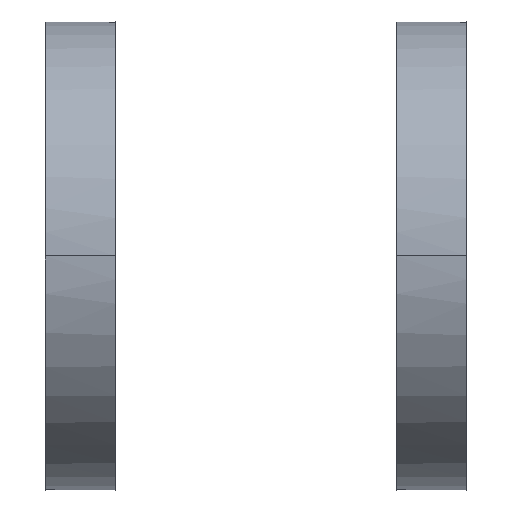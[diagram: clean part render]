
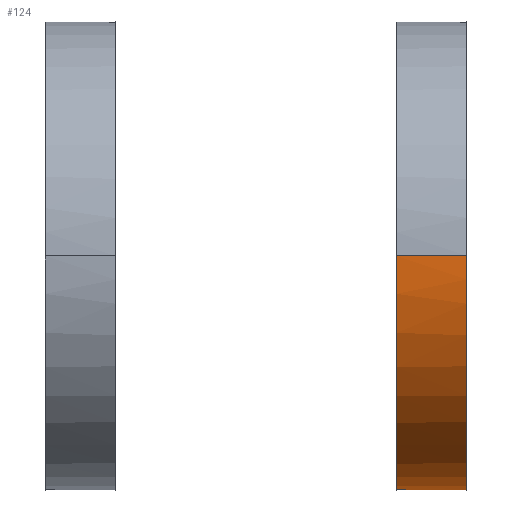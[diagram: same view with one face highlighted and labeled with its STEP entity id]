
A CAD part, front view. The second image highlights one B-rep face of the part: STEP entity #124.
In plain terms, the highlighted free-form (B-spline) face has degree [1, 2] with [2, 9] control points.
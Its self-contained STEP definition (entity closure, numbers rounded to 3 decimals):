
#27=B_SPLINE_CURVE_WITH_KNOTS('',1,(#413,#414),.UNSPECIFIED.,.F.,.F.,(2,
2),(0.,1.),.UNSPECIFIED.);
#28=B_SPLINE_CURVE_WITH_KNOTS('',1,(#415,#416),.UNSPECIFIED.,.F.,.F.,(2,
2),(0.,1.),.UNSPECIFIED.);
#29=B_SPLINE_CURVE_WITH_KNOTS('',1,(#422,#423),.UNSPECIFIED.,.F.,.F.,(2,
2),(1.,4.142),.UNSPECIFIED.);
#30=B_SPLINE_CURVE_WITH_KNOTS('',1,(#424,#425),.UNSPECIFIED.,.F.,.F.,(2,
2),(4.142,5.142),.UNSPECIFIED.);
#31=B_SPLINE_CURVE_WITH_KNOTS('',1,(#426,#427),.UNSPECIFIED.,.F.,.F.,(2,
2),(4.142,5.142),.UNSPECIFIED.);
#32=B_SPLINE_CURVE_WITH_KNOTS('',1,(#433,#434),.UNSPECIFIED.,.F.,.F.,(2,
2),(5.142,8.283),.UNSPECIFIED.);
#51=(
BOUNDED_SURFACE()
B_SPLINE_SURFACE(1,2,((#391,#392,#393,#394,#395,#396,#397,#398,#399),(#400,
#401,#402,#403,#404,#405,#406,#407,#408)),.UNSPECIFIED.,.F.,.F.,.F.)
B_SPLINE_SURFACE_WITH_KNOTS((2,2),(3,2,2,2,3),(0.,1.),(0.,1.571,
3.142,4.712,6.283),.UNSPECIFIED.)
GEOMETRIC_REPRESENTATION_ITEM()
RATIONAL_B_SPLINE_SURFACE(((1.,0.707,1.,0.707,1.,
0.707,1.,0.707,1.),(1.,0.707,1.,0.707,
1.,0.707,1.,0.707,1.)))
REPRESENTATION_ITEM('')
SURFACE()
);
#124=ADVANCED_FACE('',(#132),#51,.T.);
#132=FACE_OUTER_BOUND('',#139,.T.);
#139=EDGE_LOOP('',(#147,#148,#149,#150));
#147=ORIENTED_EDGE('',*,*,#227,.T.);
#148=ORIENTED_EDGE('',*,*,#228,.T.);
#149=ORIENTED_EDGE('',*,*,#229,.T.);
#150=ORIENTED_EDGE('',*,*,#230,.T.);
#167=PCURVE('',#51,#187);
#168=PCURVE('',#51,#188);
#169=PCURVE('',#51,#189);
#170=PCURVE('',#51,#190);
#187=DEFINITIONAL_REPRESENTATION('',(#28),#611);
#188=DEFINITIONAL_REPRESENTATION('',(#29),#611);
#189=DEFINITIONAL_REPRESENTATION('',(#31),#611);
#190=DEFINITIONAL_REPRESENTATION('',(#32),#611);
#207=SURFACE_CURVE('',#27,(#167),.PCURVE_S1.);
#208=SURFACE_CURVE('',#249,(#168),.PCURVE_S1.);
#209=SURFACE_CURVE('',#30,(#169),.PCURVE_S1.);
#210=SURFACE_CURVE('',#250,(#170),.PCURVE_S1.);
#227=EDGE_CURVE('',#263,#264,#207,.T.);
#228=EDGE_CURVE('',#264,#265,#208,.T.);
#229=EDGE_CURVE('',#265,#266,#209,.T.);
#230=EDGE_CURVE('',#266,#263,#210,.T.);
#249=(
BOUNDED_CURVE()
B_SPLINE_CURVE(2,(#417,#418,#419,#420,#421),.UNSPECIFIED.,.F.,.F.)
B_SPLINE_CURVE_WITH_KNOTS((3,2,3),(1.,2.571,4.142),
 .UNSPECIFIED.)
CURVE()
GEOMETRIC_REPRESENTATION_ITEM()
RATIONAL_B_SPLINE_CURVE((1.,0.707,1.,0.707,1.))
REPRESENTATION_ITEM('')
);
#250=(
BOUNDED_CURVE()
B_SPLINE_CURVE(2,(#428,#429,#430,#431,#432),.UNSPECIFIED.,.F.,.F.)
B_SPLINE_CURVE_WITH_KNOTS((3,2,3),(5.142,6.712,8.283),
 .UNSPECIFIED.)
CURVE()
GEOMETRIC_REPRESENTATION_ITEM()
RATIONAL_B_SPLINE_CURVE((1.,0.707,1.,0.707,1.))
REPRESENTATION_ITEM('')
);
#263=VERTEX_POINT('',#409);
#264=VERTEX_POINT('',#410);
#265=VERTEX_POINT('',#411);
#266=VERTEX_POINT('',#412);
#391=CARTESIAN_POINT('',(0.,5.,0.));
#392=CARTESIAN_POINT('',(0.,5.,5.));
#393=CARTESIAN_POINT('',(0.,0.,5.));
#394=CARTESIAN_POINT('',(0.,-5.,5.));
#395=CARTESIAN_POINT('',(0.,-5.,0.));
#396=CARTESIAN_POINT('',(0.,-5.,-5.));
#397=CARTESIAN_POINT('',(0.,0.,-5.));
#398=CARTESIAN_POINT('',(0.,5.,-5.));
#399=CARTESIAN_POINT('',(0.,5.,0.));
#400=CARTESIAN_POINT('',(-1.5,5.,0.));
#401=CARTESIAN_POINT('',(-1.5,5.,5.));
#402=CARTESIAN_POINT('',(-1.5,0.,5.));
#403=CARTESIAN_POINT('',(-1.5,-5.,5.));
#404=CARTESIAN_POINT('',(-1.5,-5.,0.));
#405=CARTESIAN_POINT('',(-1.5,-5.,-5.));
#406=CARTESIAN_POINT('',(-1.5,0.,-5.));
#407=CARTESIAN_POINT('',(-1.5,5.,-5.));
#408=CARTESIAN_POINT('',(-1.5,5.,0.));
#409=CARTESIAN_POINT('',(-1.5,5.,0.));
#410=CARTESIAN_POINT('',(0.,5.,0.));
#411=CARTESIAN_POINT('',(0.,-5.,0.));
#412=CARTESIAN_POINT('',(-1.5,-5.,0.));
#413=CARTESIAN_POINT('',(-1.5,5.,0.));
#414=CARTESIAN_POINT('',(0.,5.,0.));
#415=CARTESIAN_POINT('',(1.,6.283));
#416=CARTESIAN_POINT('',(0.,6.283));
#417=CARTESIAN_POINT('',(0.,5.,0.));
#418=CARTESIAN_POINT('',(0.,5.,-5.));
#419=CARTESIAN_POINT('',(0.,0.,-5.));
#420=CARTESIAN_POINT('',(0.,-5.,-5.));
#421=CARTESIAN_POINT('',(0.,-5.,0.));
#422=CARTESIAN_POINT('',(0.,6.283));
#423=CARTESIAN_POINT('',(0.,3.142));
#424=CARTESIAN_POINT('',(0.,-5.,0.));
#425=CARTESIAN_POINT('',(-1.5,-5.,0.));
#426=CARTESIAN_POINT('',(0.,3.142));
#427=CARTESIAN_POINT('',(1.,3.142));
#428=CARTESIAN_POINT('',(-1.5,-5.,0.));
#429=CARTESIAN_POINT('',(-1.5,-5.,-5.));
#430=CARTESIAN_POINT('',(-1.5,0.,-5.));
#431=CARTESIAN_POINT('',(-1.5,5.,-5.));
#432=CARTESIAN_POINT('',(-1.5,5.,0.));
#433=CARTESIAN_POINT('',(1.,3.142));
#434=CARTESIAN_POINT('',(1.,6.283));
#611=(
GEOMETRIC_REPRESENTATION_CONTEXT(2)
PARAMETRIC_REPRESENTATION_CONTEXT()
REPRESENTATION_CONTEXT('pspace','')
);
